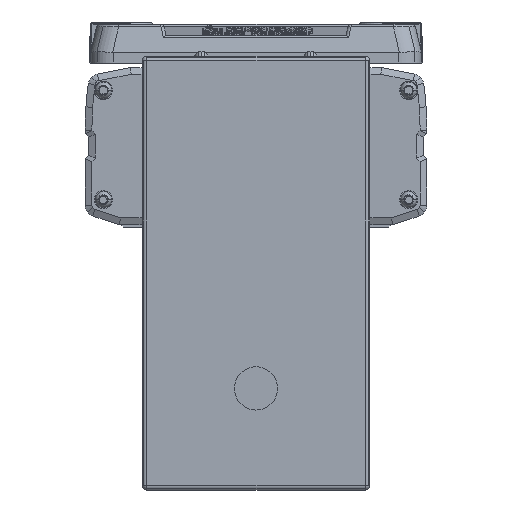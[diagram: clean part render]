
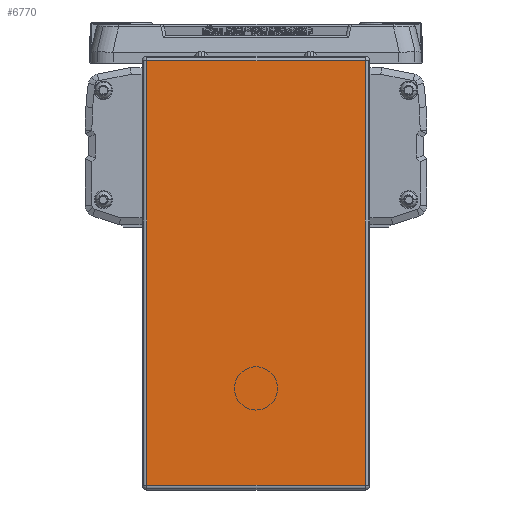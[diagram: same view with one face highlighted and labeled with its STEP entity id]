
A CAD part, left-side view. The second image highlights one B-rep face of the part: STEP entity #6770.
In plain terms, the highlighted planar face has unit normal (-1, 0, 0).
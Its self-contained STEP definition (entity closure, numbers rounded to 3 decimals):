
#6770=ADVANCED_FACE('',(#13943),#13944,.T.);
#13943=FACE_OUTER_BOUND('',#22694,.T.);
#13944=PLANE('',#22695);
#22694=EDGE_LOOP('',(#42061,#42062,#42063,#42064));
#22695=AXIS2_PLACEMENT_3D('',#42065,#42066,#42067);
#42061=ORIENTED_EDGE('',*,*,#46771,.F.);
#42062=ORIENTED_EDGE('',*,*,#47904,.F.);
#42063=ORIENTED_EDGE('',*,*,#53710,.F.);
#42064=ORIENTED_EDGE('',*,*,#50266,.F.);
#42065=CARTESIAN_POINT('',(-45.,0.,-64.2));
#42066=DIRECTION('',(-1.0,0.,0.));
#42067=DIRECTION('',(0.,1.0,0.));
#46771=EDGE_CURVE('',#55822,#55824,#55825,.T.);
#47904=EDGE_CURVE('',#57782,#55822,#57784,.T.);
#50266=EDGE_CURVE('',#55824,#60579,#61517,.T.);
#53710=EDGE_CURVE('',#60579,#57782,#65978,.T.);
#55822=VERTEX_POINT('',#68626);
#55824=VERTEX_POINT('',#68628);
#55825=LINE('',#68629,#68630);
#57782=VERTEX_POINT('',#72317);
#57784=LINE('',#72319,#72320);
#60579=VERTEX_POINT('',#76245);
#61517=LINE('',#77556,#77557);
#65978=LINE('',#84100,#84101);
#68626=CARTESIAN_POINT('',(-45.,48.,29.));
#68628=CARTESIAN_POINT('',(-45.,-48.,29.));
#68629=CARTESIAN_POINT('',(-45.,0.,29.));
#68630=VECTOR('',#86203,10.0);
#72317=CARTESIAN_POINT('',(-45.,48.,-157.4));
#72319=CARTESIAN_POINT('',(-45.,48.,-64.2));
#72320=VECTOR('',#87759,10.0);
#76245=CARTESIAN_POINT('',(-45.,-48.,-157.4));
#77556=CARTESIAN_POINT('',(-45.,-48.,-64.2));
#77557=VECTOR('',#90983,10.0);
#84100=CARTESIAN_POINT('',(-45.,0.,-157.4));
#84101=VECTOR('',#95175,10.0);
#86203=DIRECTION('',(0.0,-1.0,0.));
#87759=DIRECTION('',(0.,0.,1.0));
#90983=DIRECTION('',(0.,0.,-1.0));
#95175=DIRECTION('',(0.0,1.0,0.));
